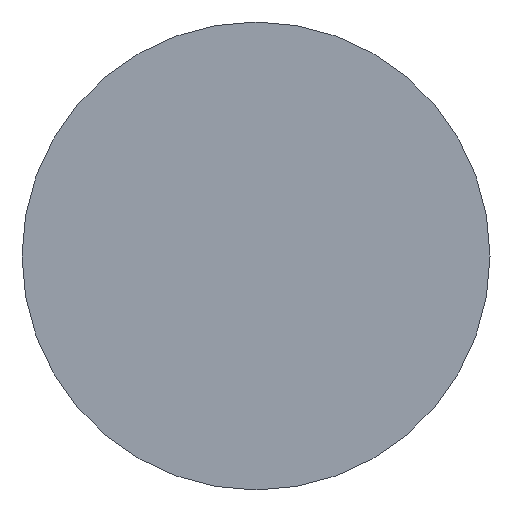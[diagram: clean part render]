
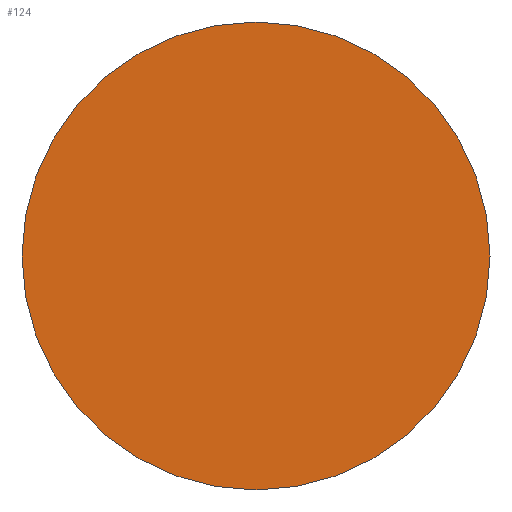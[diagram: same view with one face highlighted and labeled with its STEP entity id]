
A CAD part, top view. The second image highlights one B-rep face of the part: STEP entity #124.
In plain terms, the highlighted planar face has unit normal (0, 0, 1).
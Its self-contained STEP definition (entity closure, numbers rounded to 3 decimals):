
#49 = CONICAL_SURFACE('',#50,400.,0.866);
#50 = AXIS2_PLACEMENT_3D('',#51,#52,#53);
#51 = CARTESIAN_POINT('',(0.,0.,0.));
#52 = DIRECTION('',(0.,0.,1.));
#53 = DIRECTION('',(1.,0.,0.));
#74 = VERTEX_POINT('',#75);
#75 = CARTESIAN_POINT('',(2750.,0.,2000.));
#93 = EDGE_CURVE('',#74,#74,#94,.T.);
#94 = SURFACE_CURVE('',#95,(#100,#107),.PCURVE_S1.);
#95 = CIRCLE('',#96,2750.);
#96 = AXIS2_PLACEMENT_3D('',#97,#98,#99);
#97 = CARTESIAN_POINT('',(0.,0.,2000.));
#98 = DIRECTION('',(0.,0.,1.));
#99 = DIRECTION('',(1.,0.,0.));
#100 = PCURVE('',#49,#101);
#101 = DEFINITIONAL_REPRESENTATION('',(#102),#106);
#102 = LINE('',#103,#104);
#103 = CARTESIAN_POINT('',(0.,2000.));
#104 = VECTOR('',#105,1.);
#105 = DIRECTION('',(1.,0.));
#106 = ( GEOMETRIC_REPRESENTATION_CONTEXT(2) 
PARAMETRIC_REPRESENTATION_CONTEXT() REPRESENTATION_CONTEXT('2D SPACE',''
  ) );
#107 = PCURVE('',#108,#113);
#108 = PLANE('',#109);
#109 = AXIS2_PLACEMENT_3D('',#110,#111,#112);
#110 = CARTESIAN_POINT('',(0.,0.,2000.));
#111 = DIRECTION('',(0.,0.,1.));
#112 = DIRECTION('',(1.,0.,0.));
#113 = DEFINITIONAL_REPRESENTATION('',(#114),#118);
#114 = CIRCLE('',#115,2750.);
#115 = AXIS2_PLACEMENT_2D('',#116,#117);
#116 = CARTESIAN_POINT('',(0.,0.));
#117 = DIRECTION('',(1.,0.));
#118 = ( GEOMETRIC_REPRESENTATION_CONTEXT(2) 
PARAMETRIC_REPRESENTATION_CONTEXT() REPRESENTATION_CONTEXT('2D SPACE',''
  ) );
#124 = ADVANCED_FACE('',(#125),#108,.T.);
#125 = FACE_BOUND('',#126,.T.);
#126 = EDGE_LOOP('',(#127));
#127 = ORIENTED_EDGE('',*,*,#93,.T.);
